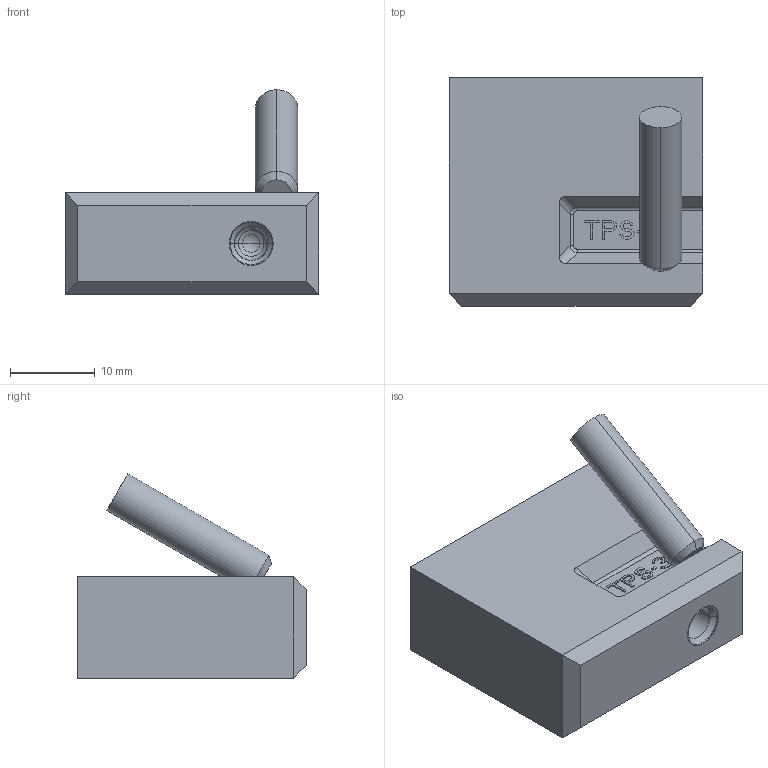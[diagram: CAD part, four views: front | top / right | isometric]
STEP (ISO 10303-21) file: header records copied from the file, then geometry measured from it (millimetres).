
FILE_DESCRIPTION((''),'2;1');
FILE_NAME('TPS-3','2012-11-08T',('gsawatzky'),(''),'PRO/ENGINEER BY PARAMETRIC TECHNOLOGY CORPORATION, 2011490','PRO/ENGINEER BY PARAMETRIC TECHNOLOGY CORPORATION, 2011490','');
FILE_SCHEMA(('CONFIG_CONTROL_DESIGN'));
Length unit declared in the file: millimetre
Products named in the file (1): TPS-3
Bounding box: 30 x 27 x 24.17 mm (x, y, z)
Volume: 8076.8 mm3; surface area: 3959.4 mm2
Topology: 1 solids, 3 shells, 301 faces, 825 edges, 553 vertices
Faces by surface type: plane 238, cylinder 25, extrusion 15, bspline 11, cone 8, sphere 2, torus 2
Entity records: 11511 total; most frequent: CARTESIAN_POINT 3961, ORIENTED_EDGE 1606, DIRECTION 1394, EDGE_CURVE 805, VECTOR 718, LINE 703, VERTEX_POINT 527, AXIS2_PLACEMENT_3D 338
